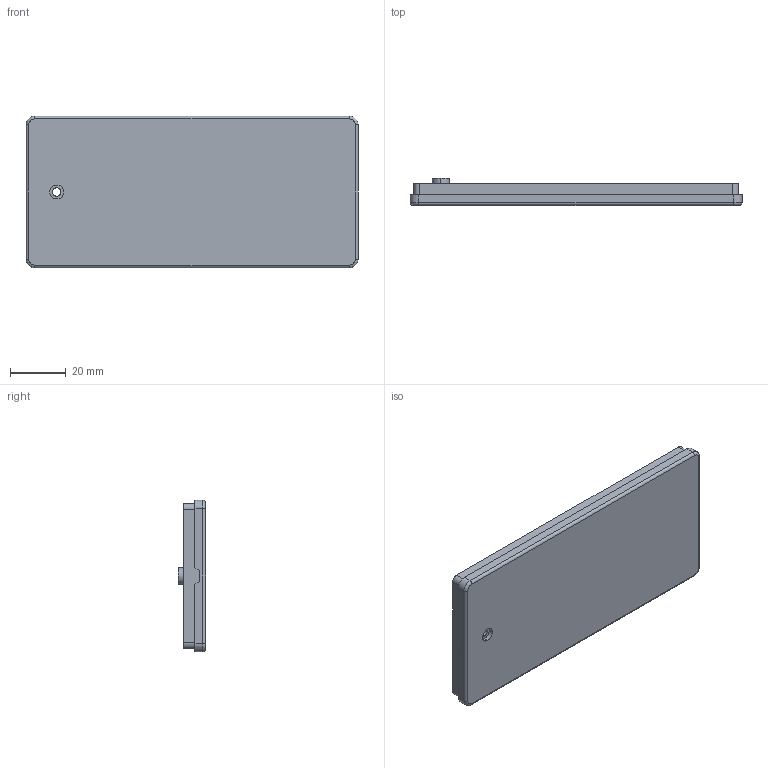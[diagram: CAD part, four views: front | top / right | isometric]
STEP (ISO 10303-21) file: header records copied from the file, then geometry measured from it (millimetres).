
FILE_DESCRIPTION (( 'STEP AP214' ), '1' );
FILE_NAME ('Tapa PP4.STEP', '2017-07-17T07:55:07', ( 'aaa' ), ( '' ), 'SwSTEP 2.0', 'SolidWorks 2013', '' );
FILE_SCHEMA (( 'AUTOMOTIVE_DESIGN' ));
Length unit declared in the file: millimetre
Products named in the file (1): Tapa PP4
Bounding box: 119 x 9.7 x 54.39 mm (x, y, z)
Volume: 19055.2 mm3; surface area: 17538.1 mm2
Topology: 1 solids, 1 shells, 47 faces, 118 edges, 76 vertices
Faces by surface type: cylinder 22, plane 21, torus 4
Entity records: 1454 total; most frequent: DIRECTION 262, CARTESIAN_POINT 242, ORIENTED_EDGE 236, EDGE_CURVE 118, AXIS2_PLACEMENT_3D 96, VERTEX_POINT 76, VECTOR 70, LINE 70
